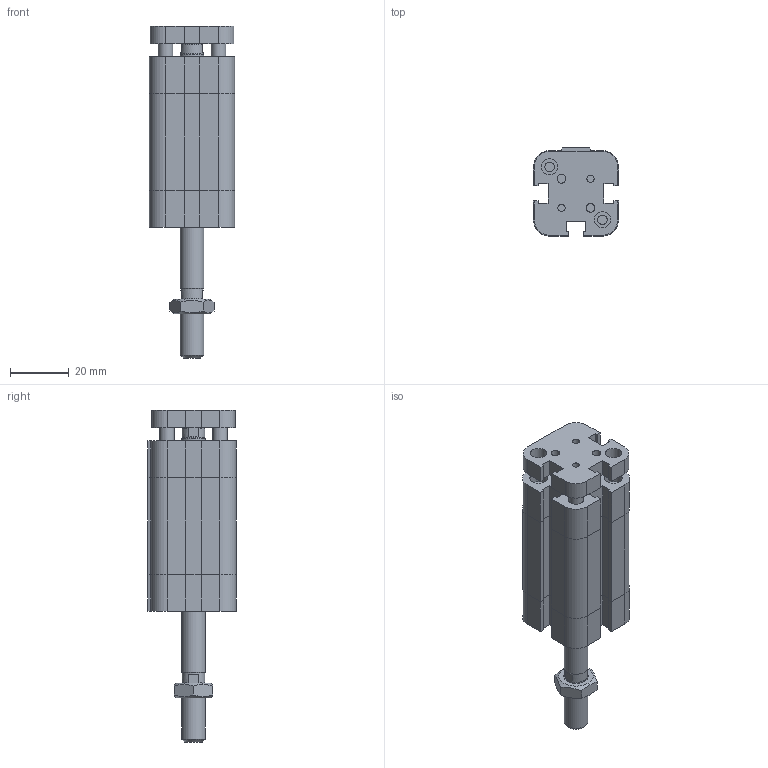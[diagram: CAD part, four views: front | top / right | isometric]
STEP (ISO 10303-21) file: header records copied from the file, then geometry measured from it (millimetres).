
FILE_DESCRIPTION((''),'2;1');
FILE_NAME('I:\Area Tecnica\Disegni\VARIE-3D\Componenti\EUROPE\15##_###_####_09_#\1581_16_0020_09_1.iam.stp','2009-04-20T15:42:36',(''),(''),'Autodesk Inventor 2009','Autodesk Inventor 2009','');
FILE_SCHEMA(('AUTOMOTIVE_DESIGN { 1 0 10303 214 1 1 1 1 }'));
Length unit declared in the file: millimetre
Products named in the file (4): 1581_16_0020_09_1; 1581_16_0020_08_1_C; 1561_16_0020_09_1_SA; DBM8
Assembly tree (3 placements, depth 2):
  1581_16_0020_09_1
    1581_16_0020_08_1_C
    1561_16_0020_09_1_SA
    DBM8
Bounding box: 29 x 30 x 113 mm (x, y, z)
Volume: 48584 mm3; surface area: 20371.5 mm2
Topology: 3 solids, 3 shells, 223 faces, 523 edges, 326 vertices
Faces by surface type: plane 144, bspline 46, cylinder 23, cone 10
Full cylindrical faces by diameter (mm): 5 x2, 6.5 x1, 7.8 x2, 8 x2
Entity records: 6544 total; most frequent: CARTESIAN_POINT 1548, ORIENTED_EDGE 934, DIRECTION 916, EDGE_CURVE 467, VECTOR 346, LINE 346, VERTEX_POINT 309, EDGE_LOOP 298
